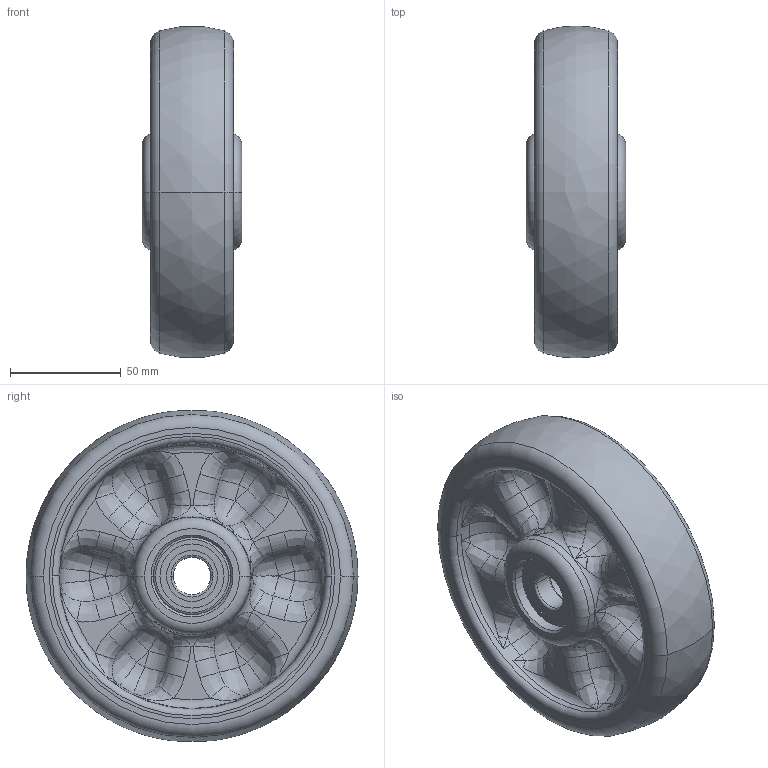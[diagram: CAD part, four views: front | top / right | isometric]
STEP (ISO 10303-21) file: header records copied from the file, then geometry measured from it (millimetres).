
FILE_DESCRIPTION((''),'2;1');
FILE_NAME('PRT0034','2025-12-23T15:47:38',('Administrator'),(''),'CREO PARAMETRIC BY PTC INC, 2022124','CREO PARAMETRIC BY PTC INC, 2022124','');
FILE_SCHEMA(('AUTOMOTIVE_DESIGN { 1 0 10303 214 1 1 1 1 }'));
Length unit declared in the file: millimetre
Products named in the file (1): PRT0034
Bounding box: 45 x 150 x 149.52 mm (x, y, z)
Surface area: 70711.8 mm2 (no closed solid volume)
Topology: 0 solids, 20 shells, 456 faces, 1124 edges, 644 vertices
Faces by surface type: bspline 250, cylinder 82, torus 56, plane 40, sphere 16, cone 12
Entity records: 29661 total; most frequent: CARTESIAN_POINT 17422, ORIENTED_EDGE 2048, DIRECTION 1589, EDGE_CURVE 1092, AXIS2_PLACEMENT_3D 734, VERTEX_POINT 644, CIRCLE 518, EDGE_LOOP 472
